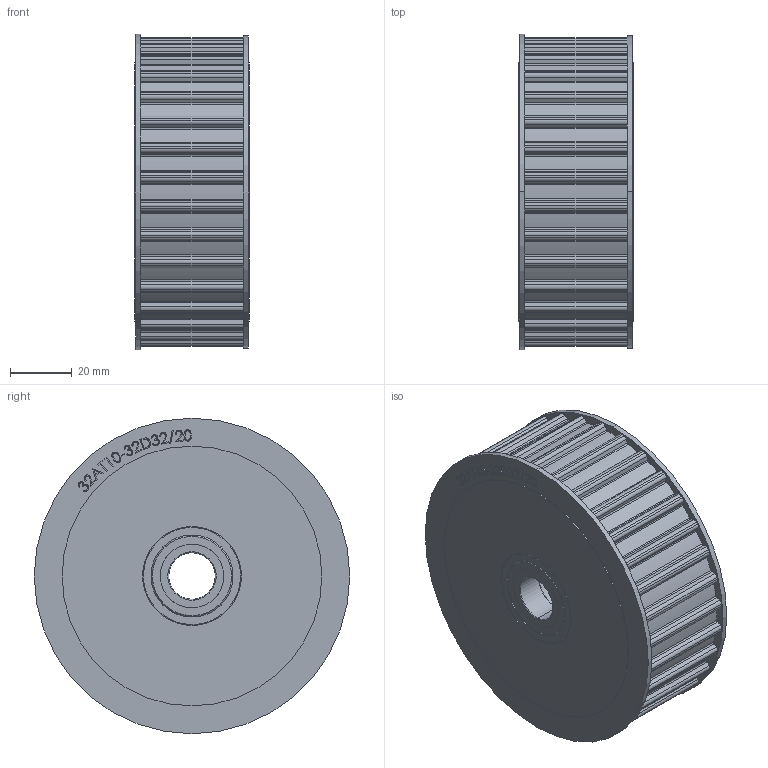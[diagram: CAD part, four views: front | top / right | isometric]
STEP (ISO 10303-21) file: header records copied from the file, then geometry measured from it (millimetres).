
FILE_DESCRIPTION (( 'STEP AP214' ), '1' );
FILE_NAME ('3.2016 Hammashihnapyörä 32AT10_32D32_20_0.STEP', '2026-02-10T10:54:35', ( '' ), ( '' ), 'SwSTEP 2.0', 'SolidWorks 2025', '' );
FILE_SCHEMA (( 'AUTOMOTIVE_DESIGN' ));
Length unit declared in the file: millimetre
Products named in the file (1): 3.2016 Hammashihnapyörä 32AT10_32D32_20_0
Bounding box: 37 x 102 x 102 mm (x, y, z)
Volume: 256258.1 mm3; surface area: 45176.9 mm2
Topology: 29 solids, 30 shells, 636 faces, 1723 edges, 1140 vertices
Faces by surface type: cylinder 271, plane 190, bspline 91, sphere 48, torus 28, cone 8
Entity records: 32078 total; most frequent: CARTESIAN_POINT 9469, ORIENTED_EDGE 3206, DIRECTION 3135, EDGE_CURVE 1603, AXIS2_PLACEMENT_3D 1176, VERTEX_POINT 1068, LINE 783, VECTOR 783
